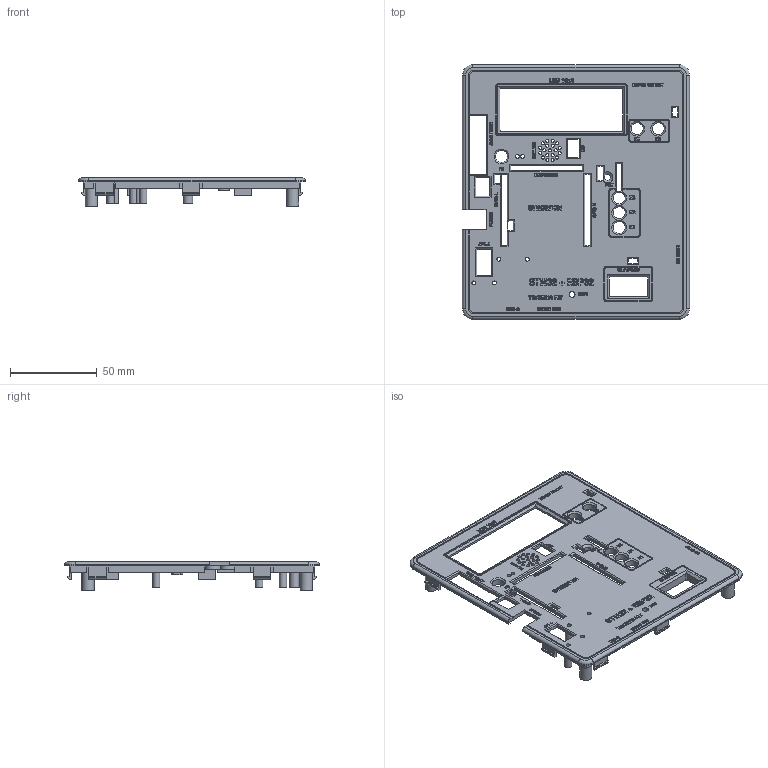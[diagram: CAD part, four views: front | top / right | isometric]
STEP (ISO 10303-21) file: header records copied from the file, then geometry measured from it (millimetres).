
FILE_DESCRIPTION(('Open CASCADE Model'),'2;1');
FILE_NAME('Open CASCADE Shape Model','2026-10-01T10:53:19',('Author'),( 'Open CASCADE'),'Open CASCADE STEP processor 7.9','Open CASCADE 7.9' ,'Unknown');
FILE_SCHEMA(('AUTOMOTIVE_DESIGN { 1 0 10303 214 1 1 1 1 }'));
Products named in the file (1): Open CASCADE STEP translator 7.9 2
Bounding box: 131 x 147 x 16.35 mm (x, y, z)
Volume: 43062.1 mm3; surface area: 44650.1 mm2
Topology: 1 solids, 1 shells, 3091 faces, 8461 edges, 5595 vertices
Faces by surface type: plane 1540, extrusion 1301, cylinder 178, bspline 61, cone 7, torus 4
Full cylindrical faces by diameter (mm): 1.8 x19, 2.3 x6, 3.4 x5, 3.6 x1, 4.2 x4, 5.4 x1, 6.9 x6, 7 x4, 9.2 x3
Entity records: 227780 total; most frequent: CARTESIAN_POINT 75640, DIRECTION 20724, ORIENTED_EDGE 16922, PCURVE 16922, DEFINITIONAL_REPRESENTATION 16922, VECTOR 16270, LINE 14969, B_SPLINE_CURVE_WITH_KNOTS 10944
